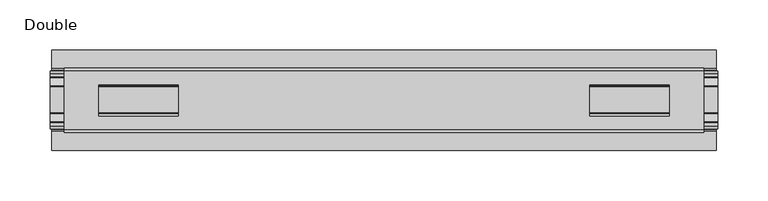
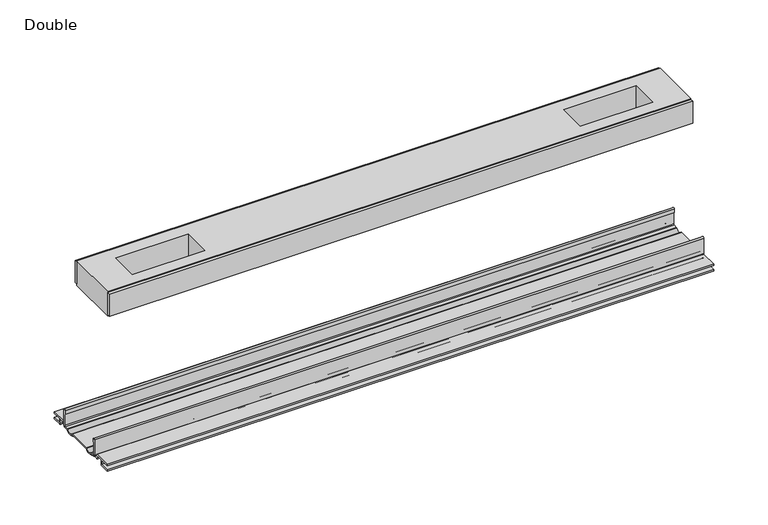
"""IFC4 building model written with IfcOpenShell, lengths in millimetres: proxy geometry, Frame-Teknion-FHCRA-Horizontal_Rail-R2022 : Double."""

from ifc_helpers import new_model, si_unit, point, frame, frame_2d, origin, place, context, project, spatial, polyline, circle_curve, trimmed, segment, composite_curve, outline, extrude, source, transform, mapped, element, save


def double_4403334b(model_context):
    return source(origin(), model_context, "Body", "SweptSolid", [
        extrude(outline(polyline([(318.4014375, -29.0068005), (318.4014375, -32.1817997), (-318.4014375, -32.1817997), (-318.4014375, -29.0068005), (318.4014375, -29.0068005)])), frame((0.0, 0.0, 149.8401622), z_axis=(0.0, 0.0, 1.0), x_axis=(1.0, 0.0, 0.0)), (0.0, 0.0, 1.0), 25.3999939),
        extrude(outline(polyline([(318.4014375, 32.1817997), (318.4014375, 29.0068005), (-318.4014375, 29.0068005), (-318.4014375, 32.1817997), (318.4014375, 32.1817997)])), frame((0.0, 0.0, 149.8401622), z_axis=(0.0, 0.0, 1.0), x_axis=(1.0, 0.0, 0.0)), (0.0, 0.0, 1.0), 25.3999939),
        extrude(outline(polyline([(318.4014375, 29.0068005), (318.4014375, -29.0068005), (-318.4014375, -29.0068005), (-318.4014375, 29.0068005), (318.4014375, 29.0068005)]), holes=[polyline([(283.9844249, 15.1130038), (204.9396131, 15.1130038), (204.9396131, -15.875003), (283.9844249, -15.875003), (283.9844249, 15.1130038)]), polyline([(-283.9844249, 15.1130038), (-283.9844249, -15.875003), (-204.9396131, -15.875003), (-204.9396131, 15.1130038), (-283.9844249, 15.1130038)])]), frame((0.0, 0.0, 148.4185847), z_axis=(0.0, 0.0, 1.0), x_axis=(1.0, 0.0, 0.0)), (0.0, 0.0, 1.0), 27.9999988),
        extrude(outline(composite_curve([segment(polyline([(-28.8162961, -7.7516037), (-28.8162961, 9.8607558)]), True, "CONTINUOUS"), segment(trimmed(circle_curve(frame_2d((-27.5970982, 9.8607558)), 1.2191979), [point((-28.8162961, 9.8607558))], [point((-26.3779003, 9.8607558))], False, "CARTESIAN"), True, "CONTINUOUS"), segment(polyline([(-26.3779003, 9.8607558), (-26.3779003, 5.9999563), (-27.6580769, 5.9999563), (-27.6580769, -7.7516037)]), True, "CONTINUOUS"), segment(trimmed(circle_curve(frame_2d((-26.6420561, -7.7516037)), 1.0160208), [point((-27.6580769, -7.7516037))], [point((-26.6485732, -8.7676036))], True, "CARTESIAN"), True, "CONTINUOUS"), segment(polyline([(-26.6485732, -8.7676036), (-22.7056226, -8.7676036), (-21.7922609, -8.968753)]), True, "CONTINUOUS"), segment(trimmed(circle_curve(frame_2d((-17.7673021, -6.1259382)), 4.9276657), [point((-21.7922609, -8.968753))], [point((-13.7423434, -8.968753))], True, "CARTESIAN"), True, "CONTINUOUS"), segment(polyline([(-13.7423434, -8.968753), (-12.8289726, -8.7676036), (13.2099722, -8.7676036), (14.123343, -8.968753)]), True, "CONTINUOUS"), segment(trimmed(circle_curve(frame_2d((18.1483018, -6.1259382)), 4.9276657), [point((14.123343, -8.968753))], [point((22.1732605, -8.968753))], True, "CARTESIAN"), True, "CONTINUOUS"), segment(polyline([(22.1732605, -8.968753), (23.0866222, -8.7676036), (27.0295728, -8.7676036)]), True, "CONTINUOUS"), segment(trimmed(circle_curve(frame_2d((27.0230557, -7.7516037)), 1.0160208), [point((27.0295728, -8.7676036))], [point((28.0390765, -7.7516037))], True, "CARTESIAN"), True, "CONTINUOUS"), segment(polyline([(28.0390765, -7.7516037), (28.0390765, 5.9999563), (26.7588999, 5.9999563), (26.7588999, 9.8607558)]), True, "CONTINUOUS"), segment(trimmed(circle_curve(frame_2d((27.9780978, 9.8607558)), 1.2191979), [point((26.7588999, 9.8607558))], [point((29.1972958, 9.8607558))], False, "CARTESIAN"), True, "CONTINUOUS"), segment(polyline([(29.1972958, 9.8607558), (29.1972958, -7.7516037)]), True, "CONTINUOUS"), segment(trimmed(circle_curve(frame_2d((27.0230557, -7.7516037)), 2.17424), [point((29.1972958, -7.7516037))], [point((27.0230557, -9.9258438))], False, "CARTESIAN"), True, "CONTINUOUS"), segment(polyline([(27.0230557, -9.9258438), (22.732069, -9.9258438)]), True, "CONTINUOUS"), segment(trimmed(circle_curve(frame_2d((18.1516545, -6.4800016)), 5.7318431), [point((22.732069, -9.9258438))], [point((13.57124, -9.9258438))], False, "CARTESIAN"), True, "CONTINUOUS"), segment(polyline([(13.57124, -9.9258438), (-13.1902404, -9.9258438)]), True, "CONTINUOUS"), segment(trimmed(circle_curve(frame_2d((-17.7706549, -6.4800016)), 5.7318431), [point((-13.1902404, -9.9258438))], [point((-22.3510694, -9.9258438))], False, "CARTESIAN"), True, "CONTINUOUS"), segment(polyline([(-22.3510694, -9.9258438), (-26.6420561, -9.9258438)]), True, "CONTINUOUS"), segment(trimmed(circle_curve(frame_2d((-26.6420561, -7.7516037)), 2.17424), [point((-26.6420561, -9.9258438))], [point((-28.8162961, -7.7516037))], False, "CARTESIAN"), True, "CONTINUOUS")], self_intersect=False)), frame((-332.4603284, 0.0, 0.0), z_axis=(1.0, 0.0, 0.0), x_axis=(0.0, 1.0, 0.0)), (0.0, 0.0, 1.0), 664.9206568),
        extrude(outline(composite_curve([segment(polyline([(-50.2668422, -13.9898438), (-50.2240211, -12.3388438), (-39.7827507, -12.3388438), (-39.7827507, -7.766844), (-50.2240211, -7.766844), (-50.2668422, -6.1158439), (-31.1784975, -6.1158439)]), True, "CONTINUOUS"), segment(trimmed(circle_curve(frame_2d((-31.1784975, -7.6398436)), 1.5239997), [point((-31.1784975, -6.1158439))], [point((-29.6544978, -7.6398436))], False, "CARTESIAN"), True, "CONTINUOUS"), segment(polyline([(-29.6544978, -7.6398436), (-29.6544978, -9.9258438), (-23.1058344, -9.9258438)]), True, "CONTINUOUS"), segment(trimmed(circle_curve(frame_2d((-17.7673021, -5.2268471)), 7.1119966), [point((-23.1058344, -9.9258438))], [point((-12.4287699, -9.9258438))], True, "CARTESIAN"), True, "CONTINUOUS"), segment(polyline([(-12.4287699, -9.9258438), (12.8097695, -9.9258438)]), True, "CONTINUOUS"), segment(trimmed(circle_curve(frame_2d((18.1483018, -5.2268471)), 7.1119966), [point((12.8097695, -9.9258438))], [point((23.486834, -9.9258438))], True, "CARTESIAN"), True, "CONTINUOUS"), segment(polyline([(23.486834, -9.9258438), (30.0354975, -9.9258438), (30.0354975, -7.7656583)]), True, "CONTINUOUS"), segment(trimmed(circle_curve(frame_2d((31.6864982, -7.7656583)), 1.6510007), [point((30.0354975, -7.7656583))], [point((31.6239218, -6.1158439))], False, "CARTESIAN"), True, "CONTINUOUS"), segment(polyline([(31.6239218, -6.1158439), (50.00625, -6.1158439), (50.00625, -7.766844), (40.1637503, -7.766844), (40.1637503, -12.3388438), (50.00625, -12.3388438), (50.00625, -13.9898438), (40.0367518, -13.9898438)]), True, "CONTINUOUS"), segment(trimmed(circle_curve(frame_2d((40.0367518, -12.4658438)), 1.524), [point((40.0367518, -13.9898438))], [point((38.5127519, -12.4658438))], False, "CARTESIAN"), True, "CONTINUOUS"), segment(polyline([(38.5127519, -12.4658438), (38.5127519, -7.766844), (31.686497, -7.766844), (31.686497, -10.0528438)]), True, "CONTINUOUS"), segment(trimmed(circle_curve(frame_2d((30.1624971, -10.0528438)), 1.524), [point((31.686497, -10.0528438))], [point((30.1624971, -11.5768438))], False, "CARTESIAN"), True, "CONTINUOUS"), segment(polyline([(30.1624971, -11.5768438), (23.6563549, -11.5768438)]), True, "CONTINUOUS"), segment(trimmed(circle_curve(frame_2d((18.1483018, -6.4968436)), 7.4930002), [point((23.6563549, -11.5768438))], [point((12.8904968, -11.8354331))], False, "CARTESIAN"), True, "CONTINUOUS"), segment(polyline([(12.8904968, -11.8354331), (-12.5094972, -11.8354331)]), True, "CONTINUOUS"), segment(trimmed(circle_curve(frame_2d((-17.7673021, -6.4968436)), 7.4930002), [point((-12.5094972, -11.8354331))], [point((-23.2753553, -11.5768438))], False, "CARTESIAN"), True, "CONTINUOUS"), segment(polyline([(-23.2753553, -11.5768438), (-29.7814974, -11.5768438)]), True, "CONTINUOUS"), segment(trimmed(circle_curve(frame_2d((-29.7814974, -10.0528438)), 1.524), [point((-29.7814974, -11.5768438))], [point((-31.3054974, -10.0528438))], False, "CARTESIAN"), True, "CONTINUOUS"), segment(polyline([(-31.3054974, -10.0528438), (-31.3054974, -7.766844), (-38.1317522, -7.766844), (-38.1317522, -12.4658438)]), True, "CONTINUOUS"), segment(trimmed(circle_curve(frame_2d((-39.6557522, -12.4658438)), 1.524), [point((-38.1317522, -12.4658438))], [point((-39.6557522, -13.9898438))], False, "CARTESIAN"), True, "CONTINUOUS"), segment(polyline([(-39.6557522, -13.9898438), (-50.2668422, -13.9898438)]), True, "CONTINUOUS")], self_intersect=False)), frame((-330.8093284, 0.0, 0.0), z_axis=(1.0, 0.0, 0.0), x_axis=(0.0, 1.0, 0.0)), (0.0, 0.0, 1.0), 661.6186568),
    ])


if __name__ == "__main__":
    model = new_model("IFC4")
    model_context = context("Model", 3, world=origin())
    ifc_project = project(units=[si_unit("LENGTHUNIT", "METRE", prefix="MILLI")], contexts=[model_context])
    site = spatial("IfcSite", under=ifc_project)
    building = spatial("IfcBuilding", under=site)
    placement = place(None, origin())
    double_shape = double_4403334b(model_context)
    element("IfcBuildingElementProxy", 1, Name="Frame-Teknion-FHCRA-Horizontal_Rail-R2022 : Double", ObjectType="Frame-Teknion-FHCRA-Horizontal_Rail-R2022 : Double", at=placement, inside=building, context=model_context, shape_type="MappedRepresentation", body=[
        mapped(double_shape, transform((0.0, 0.0, 0.0), x_axis=(1.0, 0.0, 0.0), y_axis=(0.0, 1.0, 0.0), z_axis=(0.0, 0.0, 1.0))),
    ])
    save(model, "model.ifc")
